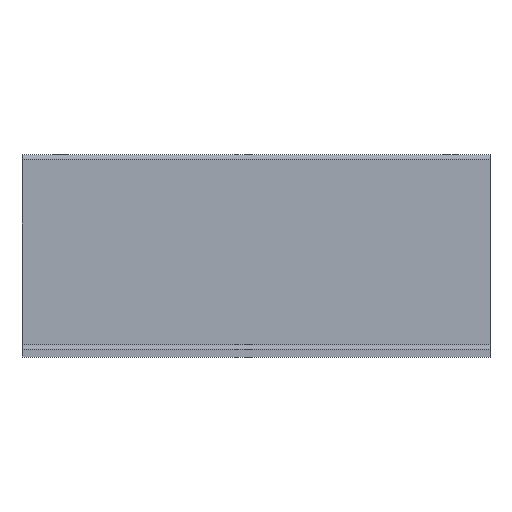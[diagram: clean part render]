
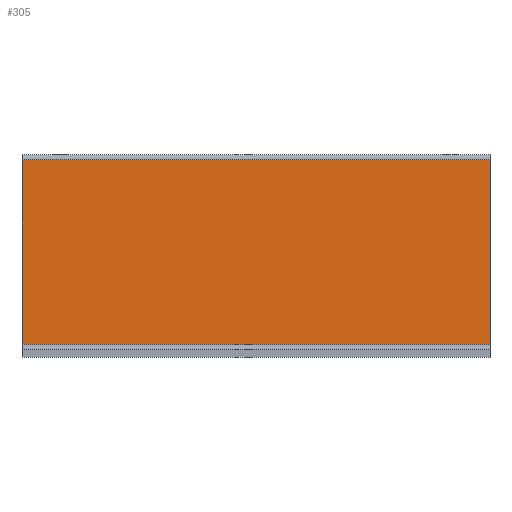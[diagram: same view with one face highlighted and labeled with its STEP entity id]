
A CAD part, top view. The second image highlights one B-rep face of the part: STEP entity #305.
In plain terms, the highlighted planar face has unit normal (0, 0, 1).
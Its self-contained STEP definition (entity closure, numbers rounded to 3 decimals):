
#23=PLANE('',#345);
#37=FACE_OUTER_BOUND('',#55,.T.);
#55=EDGE_LOOP('',(#249,#250,#251,#252));
#78=LINE('',#487,#108);
#82=LINE('',#498,#112);
#86=LINE('',#508,#116);
#87=LINE('',#510,#117);
#108=VECTOR('',#394,10.);
#112=VECTOR('',#404,10.);
#116=VECTOR('',#414,10.);
#117=VECTOR('',#417,10.);
#153=VERTEX_POINT('',#484);
#154=VERTEX_POINT('',#486);
#157=VERTEX_POINT('',#494);
#161=VERTEX_POINT('',#506);
#185=EDGE_CURVE('',#154,#153,#78,.T.);
#191=EDGE_CURVE('',#154,#157,#82,.T.);
#196=EDGE_CURVE('',#161,#153,#86,.T.);
#197=EDGE_CURVE('',#161,#157,#87,.T.);
#249=ORIENTED_EDGE('',*,*,#191,.F.);
#250=ORIENTED_EDGE('',*,*,#185,.T.);
#251=ORIENTED_EDGE('',*,*,#196,.F.);
#252=ORIENTED_EDGE('',*,*,#197,.T.);
#305=ADVANCED_FACE('',(#37),#23,.F.);
#345=AXIS2_PLACEMENT_3D('',#509,#415,#416);
#394=DIRECTION('',(0.,1.,0.));
#404=DIRECTION('',(-1.,0.,0.));
#414=DIRECTION('',(1.,0.,0.));
#415=DIRECTION('center_axis',(0.,0.,-1.));
#416=DIRECTION('ref_axis',(0.,1.,0.));
#417=DIRECTION('',(0.,-1.,0.));
#484=CARTESIAN_POINT('',(180.,-0.5,31.5));
#486=CARTESIAN_POINT('',(180.,-71.5,31.5));
#487=CARTESIAN_POINT('',(180.,0.,31.5));
#494=CARTESIAN_POINT('',(0.,-71.5,31.5));
#498=CARTESIAN_POINT('',(0.,-71.5,31.5));
#506=CARTESIAN_POINT('',(0.,-0.5,31.5));
#508=CARTESIAN_POINT('',(0.,-0.5,31.5));
#509=CARTESIAN_POINT('Origin',(0.,-75.,31.5));
#510=CARTESIAN_POINT('',(0.,0.,31.5));
